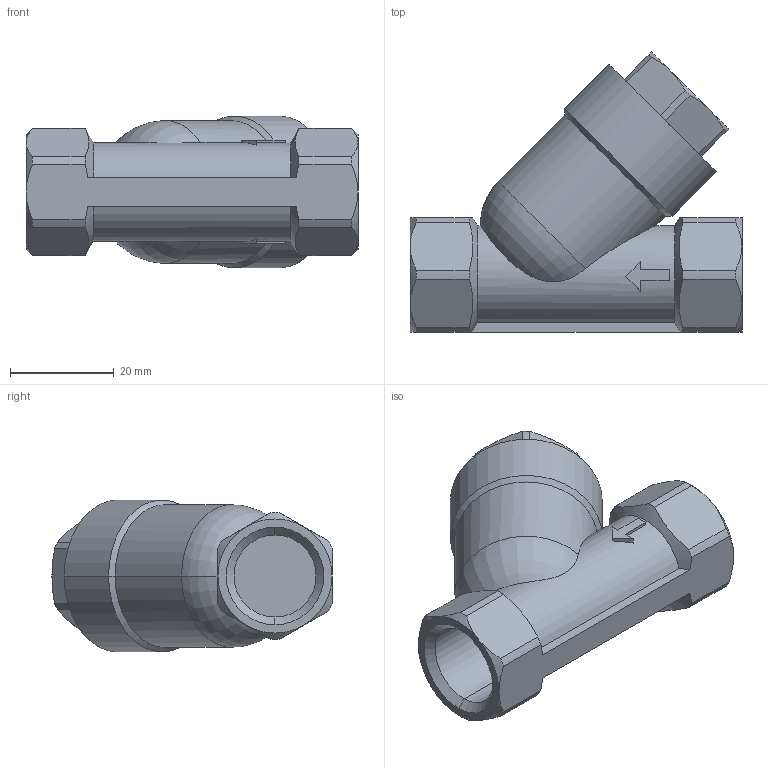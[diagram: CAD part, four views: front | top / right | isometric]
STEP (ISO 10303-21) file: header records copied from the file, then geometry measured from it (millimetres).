
FILE_DESCRIPTION (( 'STEP AP203' ), '1' );
FILE_NAME ('Y6.623010FNC.STEP', '2018-12-14T07:34:00', ( 'dell2' ), ( 'Microsoft' ), 'SwSTEP 2.0', 'SolidWorks 2017', '' );
FILE_SCHEMA (( 'CONFIG_CONTROL_DESIGN' ));
Length unit declared in the file: millimetre
Products named in the file (1): Y6.623010FNC
Bounding box: 64 x 54 x 29.3 mm (x, y, z)
Volume: 38681.6 mm3; surface area: 10257.8 mm2
Topology: 1 solids, 1 shells, 97 faces, 240 edges, 151 vertices
Faces by surface type: plane 41, cone 27, cylinder 27, torus 2
Entity records: 3314 total; most frequent: CARTESIAN_POINT 994, ORIENTED_EDGE 480, DIRECTION 457, EDGE_CURVE 240, AXIS2_PLACEMENT_3D 182, VERTEX_POINT 151, EDGE_LOOP 103, ADVANCED_FACE 97
